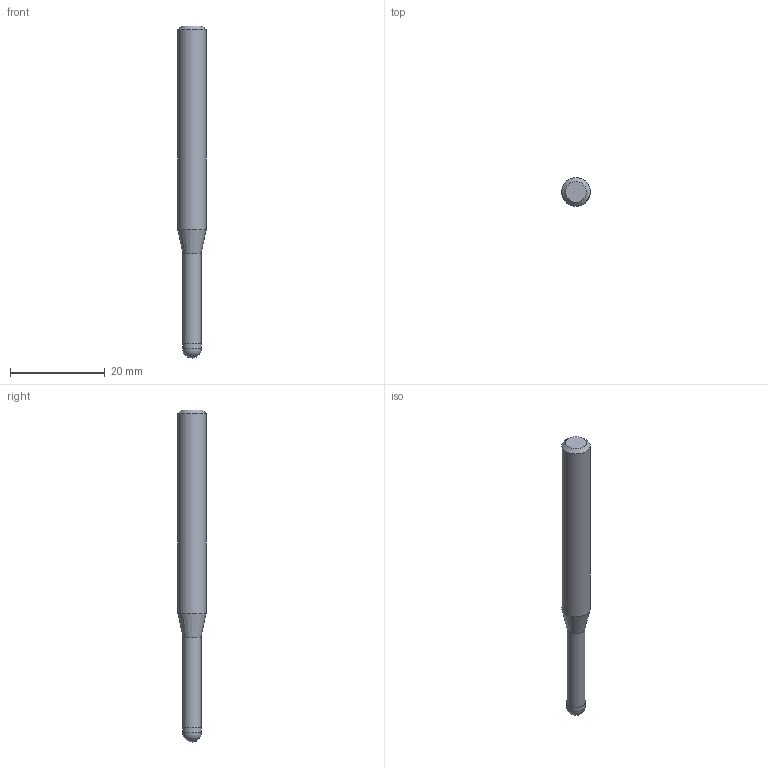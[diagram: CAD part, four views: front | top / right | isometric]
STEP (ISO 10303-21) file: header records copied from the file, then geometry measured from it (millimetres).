
FILE_DESCRIPTION((''),'2;1');
FILE_NAME('C:\Users\nsx150\AppData\Local\Temp\Mastercam 2021\ARV7HD45SN\TEMP.step','2023-06-13T16:39:13',(''),(''),'STEP Write','Mastercam 2021 ... CNC Software, Inc.','');
FILE_SCHEMA(('AUTOMOTIVE_DESIGN'));
Length unit declared in the file: millimetre
Products named in the file (1): None
Bounding box: 6 x 6 x 70 mm (x, y, z)
Volume: 1549.4 mm3; surface area: 1195.7 mm2
Topology: 2 solids, 2 shells, 9 faces, 14 edges, 8 vertices
Faces by surface type: plane 3, cylinder 3, cone 2, sphere 1
Full cylindrical faces by diameter (mm): 3.8 x1, 4 x1, 6 x1
Entity records: 211 total; most frequent: DIRECTION 36, CARTESIAN_POINT 25, AXIS2_PLACEMENT_3D 18, ORIENTED_EDGE 14, EDGE_LOOP 14, STYLED_ITEM 12, ADVANCED_FACE 9, FACE_BOUND 8
